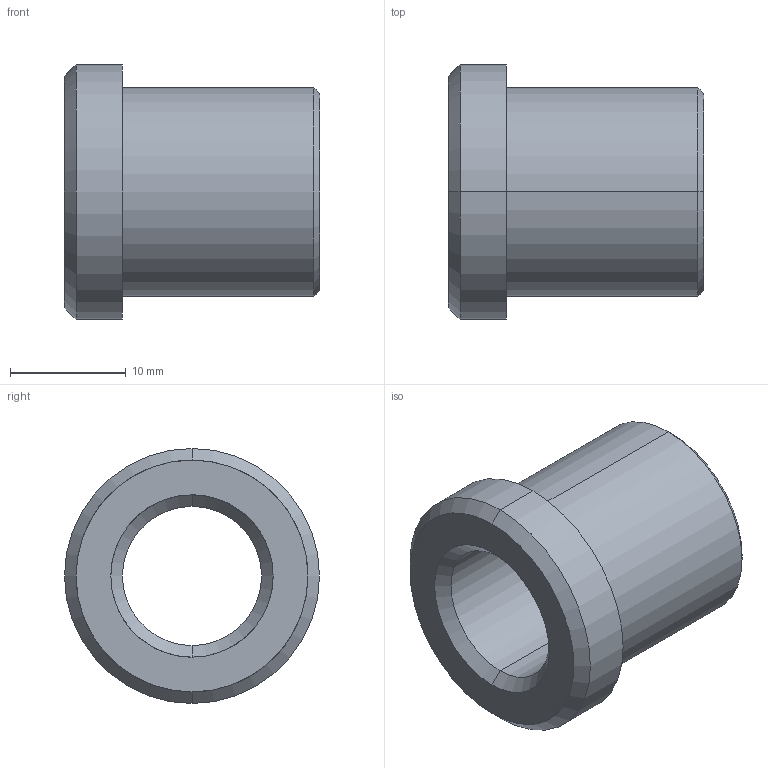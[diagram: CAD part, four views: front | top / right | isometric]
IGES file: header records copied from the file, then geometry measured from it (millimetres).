
Start section: START RECORD GO HERE.
Global section: file name: 353-12X22.igs; native system: DASSAULT SYSTEMES CATIA V5 R20 - www.3ds.com; preprocessor: CATIA Version 5 Release 20 ; author: Utente; organization: NB04-ASUS; date: 20210421.142320; units: millimetre
Bounding box: 22 x 22 x 22 mm (x, y, z)
Surface area: 2575.2 mm2 (no closed solid volume)
Topology: 0 solids, 0 shells, 17 faces, 108 edges, 108 vertices
Faces by surface type: revolution 14, plane 3
